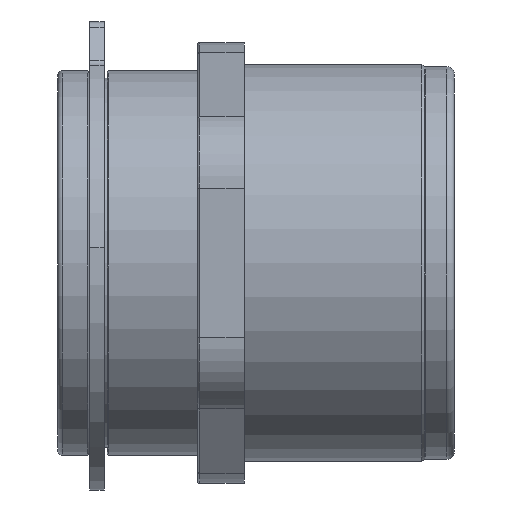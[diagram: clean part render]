
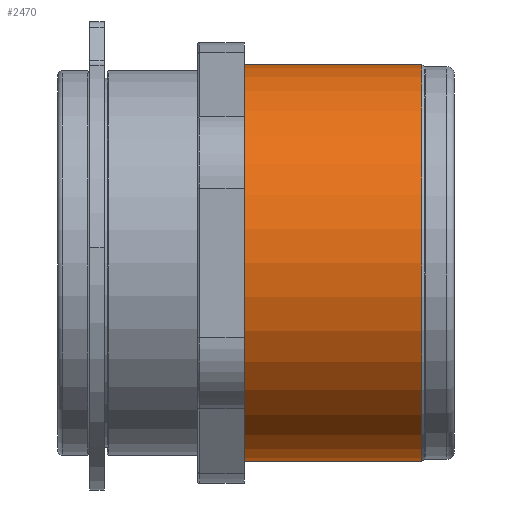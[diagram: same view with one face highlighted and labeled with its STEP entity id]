
A CAD part, left-side view. The second image highlights one B-rep face of the part: STEP entity #2470.
In plain terms, the highlighted cylindrical face has radius 26.979 mm (diameter 53.957 mm), a partial arc.
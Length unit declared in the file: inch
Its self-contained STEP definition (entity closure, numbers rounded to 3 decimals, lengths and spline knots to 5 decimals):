
#175 = ORIENTED_EDGE ( 'NONE', *, *, #690, .T. ) ;
#190 = ORIENTED_EDGE ( 'NONE', *, *, #696, .T. ) ;
#210 = ORIENTED_EDGE ( 'NONE', *, *, #694, .F. ) ;
#256 = ORIENTED_EDGE ( 'NONE', *, *, #703, .F. ) ;
#290 = EDGE_LOOP ( 'NONE', ( #256, #190, #175, #210 ) ) ;
#477 = VECTOR ( 'NONE', #2794, 39.37008 ) ;
#479 = LINE ( 'NONE', #2787, #477 ) ;
#487 = CIRCLE ( 'NONE', #908, 1.06215 ) ;
#490 = CIRCLE ( 'NONE', #911, 1.06215 ) ;
#492 = LINE ( 'NONE', #2826, #495 ) ;
#495 = VECTOR ( 'NONE', #2827, 39.37008 ) ;
#690 = EDGE_CURVE ( 'NONE', #2504, #2519, #479, .T. ) ;
#694 = EDGE_CURVE ( 'NONE', #2600, #2519, #487, .T. ) ;
#696 = EDGE_CURVE ( 'NONE', #2507, #2504, #490, .T. ) ;
#703 = EDGE_CURVE ( 'NONE', #2507, #2600, #492, .T. ) ;
#908 = AXIS2_PLACEMENT_3D ( 'NONE', #2795, #2802, #2803 ) ;
#911 = AXIS2_PLACEMENT_3D ( 'NONE', #2801, #2808, #2809 ) ;
#1444 = FACE_OUTER_BOUND ( 'NONE', #290, .T. ) ;
#1447 = CYLINDRICAL_SURFACE ( 'NONE', #2395, 1.06215 ) ;
#2095 = DIRECTION ( 'NONE',  ( 0., 0., 1. ) ) ;
#2096 = DIRECTION ( 'NONE',  ( 0., 1., 0. ) ) ;
#2097 = CARTESIAN_POINT ( 'NONE',  ( 0., -1.125, 0. ) ) ;
#2174 = CARTESIAN_POINT ( 'NONE',  ( 0., -0.95, 1.06215 ) ) ;
#2177 = CARTESIAN_POINT ( 'NONE',  ( 0., -0.95, -1.06215 ) ) ;
#2189 = CARTESIAN_POINT ( 'NONE',  ( 0., 0., 1.06215 ) ) ;
#2270 = CARTESIAN_POINT ( 'NONE',  ( 0., 0., -1.06215 ) ) ;
#2395 = AXIS2_PLACEMENT_3D ( 'NONE', #2097, #2096, #2095 ) ;
#2470 = ADVANCED_FACE ( 'NONE', ( #1444 ), #1447, .T. ) ;
#2504 = VERTEX_POINT ( 'NONE', #2174 ) ;
#2507 = VERTEX_POINT ( 'NONE', #2177 ) ;
#2519 = VERTEX_POINT ( 'NONE', #2189 ) ;
#2600 = VERTEX_POINT ( 'NONE', #2270 ) ;
#2787 = CARTESIAN_POINT ( 'NONE',  ( 0., -1.125, 1.06215 ) ) ;
#2794 = DIRECTION ( 'NONE',  ( 0., 1., 0. ) ) ;
#2795 = CARTESIAN_POINT ( 'NONE',  ( 0., 0., 0. ) ) ;
#2801 = CARTESIAN_POINT ( 'NONE',  ( 0., -0.95, 0. ) ) ;
#2802 = DIRECTION ( 'NONE',  ( 0., 1., 0. ) ) ;
#2803 = DIRECTION ( 'NONE',  ( 0., 0., 1. ) ) ;
#2808 = DIRECTION ( 'NONE',  ( 0., 1., 0. ) ) ;
#2809 = DIRECTION ( 'NONE',  ( 0., 0., 1. ) ) ;
#2826 = CARTESIAN_POINT ( 'NONE',  ( 0., -1.125, -1.06215 ) ) ;
#2827 = DIRECTION ( 'NONE',  ( 0., 1., 0. ) ) ;
